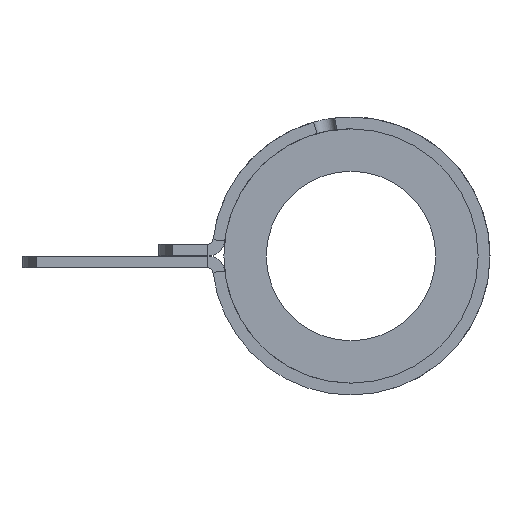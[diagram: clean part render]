
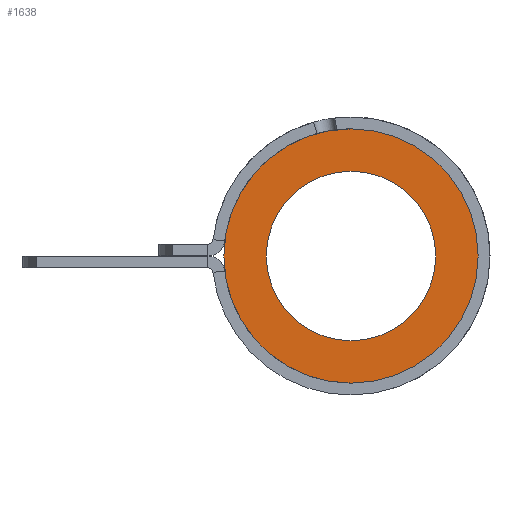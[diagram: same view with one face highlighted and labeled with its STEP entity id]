
A CAD part, left-side view. The second image highlights one B-rep face of the part: STEP entity #1638.
In plain terms, the highlighted planar face has unit normal (-1, 0, 0).
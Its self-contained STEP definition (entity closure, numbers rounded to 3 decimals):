
#277 = DIRECTION ( 'NONE',  ( 0., 0., -1. ) ) ;
#278 = DIRECTION ( 'NONE',  ( 1., 0., 0. ) ) ;
#280 = CARTESIAN_POINT ( 'NONE',  ( -76.2, 0., 0. ) ) ;
#287 = PLANE ( 'NONE',  #763 ) ;
#326 = CARTESIAN_POINT ( 'NONE',  ( -76.2, 0., 9.525 ) ) ;
#328 = CARTESIAN_POINT ( 'NONE',  ( -76.2, 0., -9.525 ) ) ;
#330 = CARTESIAN_POINT ( 'NONE',  ( -76.2, 0., -6.35 ) ) ;
#338 = CARTESIAN_POINT ( 'NONE',  ( -76.2, 0., 6.35 ) ) ;
#487 = DIRECTION ( 'NONE',  ( 0., 0., -1. ) ) ;
#488 = DIRECTION ( 'NONE',  ( 1., 0., 0. ) ) ;
#489 = CARTESIAN_POINT ( 'NONE',  ( -76.2, 0., 0. ) ) ;
#491 = DIRECTION ( 'NONE',  ( 0., 0., -1. ) ) ;
#492 = DIRECTION ( 'NONE',  ( 1., 0., 0. ) ) ;
#493 = CARTESIAN_POINT ( 'NONE',  ( -76.2, 0., 0. ) ) ;
#536 = DIRECTION ( 'NONE',  ( 0., 0., -1. ) ) ;
#537 = DIRECTION ( 'NONE',  ( 1., 0., 0. ) ) ;
#538 = CARTESIAN_POINT ( 'NONE',  ( -76.2, 0., 0. ) ) ;
#549 = DIRECTION ( 'NONE',  ( 0., 0., -1. ) ) ;
#551 = DIRECTION ( 'NONE',  ( 1., 0., 0. ) ) ;
#552 = CARTESIAN_POINT ( 'NONE',  ( -76.2, 0., 0. ) ) ;
#677 = AXIS2_PLACEMENT_3D ( 'NONE', #552, #551, #549 ) ;
#753 = EDGE_CURVE ( 'NONE', #1046, #1061, #1425, .T. ) ;
#758 = EDGE_CURVE ( 'NONE', #1012, #1040, #1431, .T. ) ;
#763 = AXIS2_PLACEMENT_3D ( 'NONE', #280, #278, #277 ) ;
#779 = AXIS2_PLACEMENT_3D ( 'NONE', #538, #537, #536 ) ;
#827 = EDGE_CURVE ( 'NONE', #1061, #1046, #1451, .T. ) ;
#828 = EDGE_CURVE ( 'NONE', #1040, #1012, #1450, .T. ) ;
#859 = AXIS2_PLACEMENT_3D ( 'NONE', #489, #488, #487 ) ;
#884 = AXIS2_PLACEMENT_3D ( 'NONE', #493, #492, #491 ) ;
#946 = EDGE_LOOP ( 'NONE', ( #1043, #1123 ) ) ;
#1012 = VERTEX_POINT ( 'NONE', #338 ) ;
#1015 = ORIENTED_EDGE ( 'NONE', *, *, #753, .F. ) ;
#1040 = VERTEX_POINT ( 'NONE', #330 ) ;
#1043 = ORIENTED_EDGE ( 'NONE', *, *, #758, .T. ) ;
#1046 = VERTEX_POINT ( 'NONE', #328 ) ;
#1061 = VERTEX_POINT ( 'NONE', #326 ) ;
#1073 = EDGE_LOOP ( 'NONE', ( #1081, #1015 ) ) ;
#1081 = ORIENTED_EDGE ( 'NONE', *, *, #827, .F. ) ;
#1123 = ORIENTED_EDGE ( 'NONE', *, *, #828, .T. ) ;
#1425 = CIRCLE ( 'NONE', #677, 9.525 ) ;
#1431 = CIRCLE ( 'NONE', #779, 6.35 ) ;
#1450 = CIRCLE ( 'NONE', #859, 6.35 ) ;
#1451 = CIRCLE ( 'NONE', #884, 9.525 ) ;
#1499 = FACE_BOUND ( 'NONE', #946, .T. ) ;
#1501 = FACE_OUTER_BOUND ( 'NONE', #1073, .T. ) ;
#1638 = ADVANCED_FACE ( 'NONE', ( #1501, #1499 ), #287, .F. ) ;
